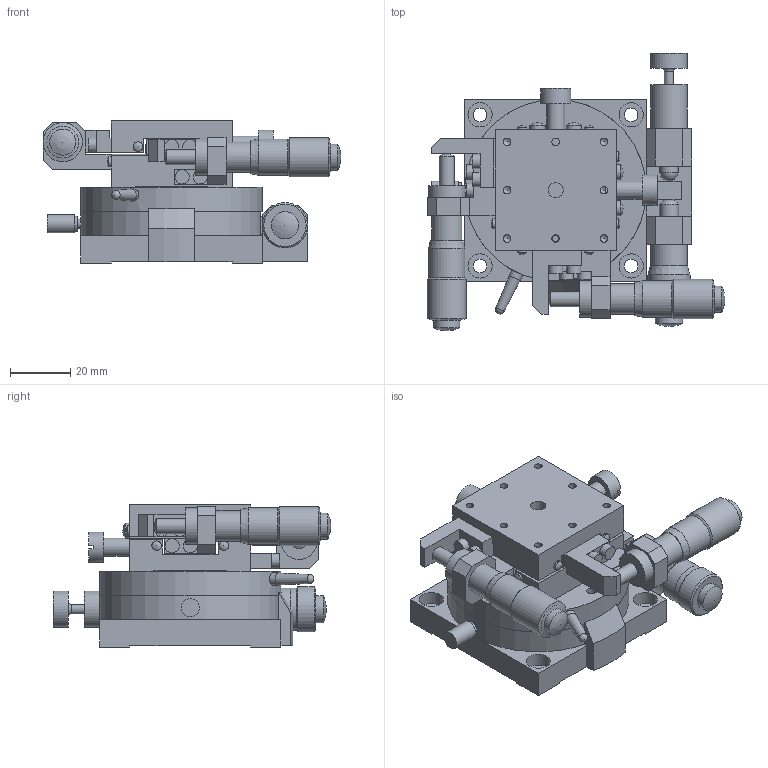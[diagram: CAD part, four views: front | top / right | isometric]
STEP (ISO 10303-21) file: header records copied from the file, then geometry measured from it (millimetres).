
FILE_DESCRIPTION( ( 'STEP AP203' ), '1' );
FILE_NAME( 'C:/3D-Trans/3D_B230-60N+080904.step', '2008-09-04T01:43:24', ( ' ' ), ( ' ' ), 'XStep 1.0', ' ', ' ' );
FILE_SCHEMA( ( 'CONFIG_CONTROL_DESIGN' ) );
Length unit declared in the file: millimetre
Products named in the file (10): 1; 2; 3; 4; 5; 6; 7; 8; 9; 10
Bounding box: 98.5 x 91.85 x 47 mm (x, y, z)
Volume: 126182.7 mm3; surface area: 66312.5 mm2
Topology: 10 solids, 11 shells, 515 faces, 1319 edges, 872 vertices
Faces by surface type: plane 273, cylinder 188, cone 32, sphere 20, bspline 1, torus 1
Full cylindrical faces by diameter (mm): 2 x8, 2.15 x1, 2.5 x30, 3 x9, 3.2 x8, 3.3 x8, 3.8 x4, 4 x1, 4.5 x4, 4.7 x8, 5 x10, 6 x4, 6.02 x1, 6.35 x1, 6.5 x1, 8 x5, 8.6 x2, 8.7 x1, 9 x3, 9.5 x1, 10 x5, 10.5 x2, 12 x7, 13 x2, 13.6 x1, 14 x3, 15 x3, 16 x1, 24 x2, 30 x2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
Entity records: 14434 total; most frequent: CARTESIAN_POINT 2551, DIRECTION 2419, ORIENTED_EDGE 2002, EDGE_CURVE 1001, AXIS2_PLACEMENT_3D 908, EDGE_LOOP 826, VERTEX_POINT 776, FACE_OUTER_BOUND 663
